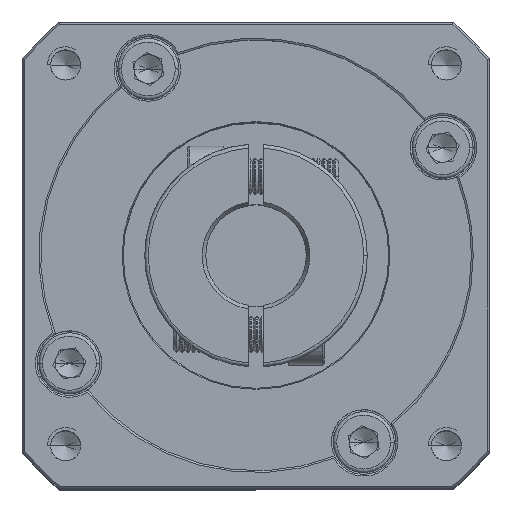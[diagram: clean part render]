
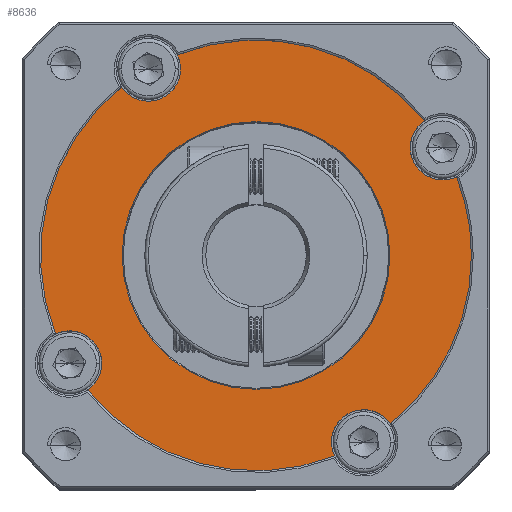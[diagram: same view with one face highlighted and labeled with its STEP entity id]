
A CAD part, top view. The second image highlights one B-rep face of the part: STEP entity #8636.
In plain terms, the highlighted planar face has unit normal (0, 0, 1).
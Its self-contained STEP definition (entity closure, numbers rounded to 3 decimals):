
#680 = AXIS2_PLACEMENT_3D ( 'NONE', #80661, #31810, #72005 ) ;
#3018 = DIRECTION ( 'NONE',  ( 1., 0., 0. ) ) ;
#3845 = CIRCLE ( 'NONE', #107388, 4.5 ) ;
#4680 = CIRCLE ( 'NONE', #114110, 4.5 ) ;
#5037 = CARTESIAN_POINT ( 'NONE',  ( -59.944, -0.896, -2.424 ) ) ;
#5299 = EDGE_CURVE ( 'NONE', #93708, #106235, #26421, .T. ) ;
#6214 = CIRCLE ( 'NONE', #122638, 18.644 ) ;
#7207 = ORIENTED_EDGE ( 'NONE', *, *, #5299, .F. ) ;
#8636 = ADVANCED_FACE ( 'NONE', ( #51244, #52737 ), #118200, .T. ) ;
#8992 = EDGE_CURVE ( 'NONE', #63909, #125956, #84758, .T. ) ;
#9085 = VERTEX_POINT ( 'NONE', #26927 ) ;
#9103 = CARTESIAN_POINT ( 'NONE',  ( -36.499, 17.821, -2.424 ) ) ;
#9124 = CARTESIAN_POINT ( 'NONE',  ( -8.567, 28.766, -2.424 ) ) ;
#10484 = CARTESIAN_POINT ( 'NONE',  ( -25.554, -10.111, -2.424 ) ) ;
#10840 = CARTESIAN_POINT ( 'NONE',  ( -57.98, 2.821, -2.424 ) ) ;
#11947 = CIRCLE ( 'NONE', #15474, 4.5 ) ;
#12978 = AXIS2_PLACEMENT_3D ( 'NONE', #31154, #70525, #109903 ) ;
#13712 = DIRECTION ( 'NONE',  ( 1., 0., 0. ) ) ;
#13940 = ORIENTED_EDGE ( 'NONE', *, *, #8992, .T. ) ;
#14415 = ORIENTED_EDGE ( 'NONE', *, *, #112878, .F. ) ;
#14554 = CARTESIAN_POINT ( 'NONE',  ( -62.48, 2.821, -2.424 ) ) ;
#15474 = AXIS2_PLACEMENT_3D ( 'NONE', #16868, #65189, #36140 ) ;
#16868 = CARTESIAN_POINT ( 'NONE',  ( -62.48, 2.821, -2.424 ) ) ;
#17542 = CARTESIAN_POINT ( 'NONE',  ( -36.499, 17.821, -2.424 ) ) ;
#17727 = EDGE_CURVE ( 'NONE', #114563, #99914, #90329, .T. ) ;
#18719 = AXIS2_PLACEMENT_3D ( 'NONE', #103231, #112720, #84083 ) ;
#20790 = CARTESIAN_POINT ( 'NONE',  ( -36.499, 17.821, -2.424 ) ) ;
#20842 = ORIENTED_EDGE ( 'NONE', *, *, #53605, .F. ) ;
#21709 = DIRECTION ( 'NONE',  ( 0., 0., 1. ) ) ;
#21981 = EDGE_LOOP ( 'NONE', ( #119877, #39073, #22604, #20842, #13940, #93633, #14415, #7207, #87514, #117417, #64119, #122611, #64389 ) ) ;
#22604 = ORIENTED_EDGE ( 'NONE', *, *, #90869, .F. ) ;
#23951 = CARTESIAN_POINT ( 'NONE',  ( -51.499, 43.802, -2.424 ) ) ;
#24765 = VERTEX_POINT ( 'NONE', #9124 ) ;
#25852 = CIRCLE ( 'NONE', #39950, 18.644 ) ;
#26421 = CIRCLE ( 'NONE', #18719, 4.5 ) ;
#26927 = CARTESIAN_POINT ( 'NONE',  ( -47.444, 45.753, -2.424 ) ) ;
#28138 = EDGE_CURVE ( 'NONE', #108896, #98127, #11947, .T. ) ;
#28393 = DIRECTION ( 'NONE',  ( 1., 0., 0. ) ) ;
#30044 = CARTESIAN_POINT ( 'NONE',  ( -6.499, 17.821, -2.424 ) ) ;
#30264 = VERTEX_POINT ( 'NONE', #113818 ) ;
#30518 = CARTESIAN_POINT ( 'NONE',  ( -36.499, 17.821, -2.424 ) ) ;
#31154 = CARTESIAN_POINT ( 'NONE',  ( -36.499, 17.821, -2.424 ) ) ;
#31810 = DIRECTION ( 'NONE',  ( 0., 0., 1. ) ) ;
#31830 = CARTESIAN_POINT ( 'NONE',  ( -55.216, 41.266, -2.424 ) ) ;
#34216 = DIRECTION ( 'NONE',  ( 1., 0., 0. ) ) ;
#36140 = DIRECTION ( 'NONE',  ( 1., 0., 0. ) ) ;
#38069 = AXIS2_PLACEMENT_3D ( 'NONE', #126661, #70542, #3018 ) ;
#39073 = ORIENTED_EDGE ( 'NONE', *, *, #17727, .T. ) ;
#39950 = AXIS2_PLACEMENT_3D ( 'NONE', #20790, #99065, #79873 ) ;
#43678 = DIRECTION ( 'NONE',  ( 0., 0., 1. ) ) ;
#44268 = CARTESIAN_POINT ( 'NONE',  ( -17.855, 17.821, -2.424 ) ) ;
#46415 = CARTESIAN_POINT ( 'NONE',  ( -13.054, 36.539, -2.424 ) ) ;
#47474 = DIRECTION ( 'NONE',  ( 0., 0., 1. ) ) ;
#47683 = DIRECTION ( 'NONE',  ( 0., 0., 1. ) ) ;
#48548 = CARTESIAN_POINT ( 'NONE',  ( -17.782, -5.624, -2.424 ) ) ;
#48902 = DIRECTION ( 'NONE',  ( 0., 0., 1. ) ) ;
#51244 = FACE_BOUND ( 'NONE', #101482, .T. ) ;
#51355 = ORIENTED_EDGE ( 'NONE', *, *, #73498, .T. ) ;
#51702 = CARTESIAN_POINT ( 'NONE',  ( -51.499, 43.802, -2.424 ) ) ;
#52552 = DIRECTION ( 'NONE',  ( 1., 0., 0. ) ) ;
#52737 = FACE_OUTER_BOUND ( 'NONE', #21981, .T. ) ;
#53097 = EDGE_CURVE ( 'NONE', #120150, #54076, #6214, .T. ) ;
#53605 = EDGE_CURVE ( 'NONE', #63909, #65089, #125478, .T. ) ;
#54076 = VERTEX_POINT ( 'NONE', #110431 ) ;
#56753 = VERTEX_POINT ( 'NONE', #31830 ) ;
#59912 = AXIS2_PLACEMENT_3D ( 'NONE', #14554, #43678, #34216 ) ;
#60525 = DIRECTION ( 'NONE',  ( 1., 0., 0. ) ) ;
#62387 = DIRECTION ( 'NONE',  ( 0., 0., 1. ) ) ;
#63909 = VERTEX_POINT ( 'NONE', #48548 ) ;
#64119 = ORIENTED_EDGE ( 'NONE', *, *, #82154, .F. ) ;
#64389 = ORIENTED_EDGE ( 'NONE', *, *, #28138, .F. ) ;
#65089 = VERTEX_POINT ( 'NONE', #95884 ) ;
#65189 = DIRECTION ( 'NONE',  ( 0., 0., 1. ) ) ;
#67382 = EDGE_CURVE ( 'NONE', #114563, #108896, #91182, .T. ) ;
#68147 = DIRECTION ( 'NONE',  ( 1., 0., 0. ) ) ;
#70525 = DIRECTION ( 'NONE',  ( 0., 0., 1. ) ) ;
#70542 = DIRECTION ( 'NONE',  ( 0., 0., 1. ) ) ;
#71606 = EDGE_CURVE ( 'NONE', #125956, #24765, #116986, .T. ) ;
#72005 = DIRECTION ( 'NONE',  ( 1., 0., 0. ) ) ;
#73498 = EDGE_CURVE ( 'NONE', #54076, #120150, #25852, .T. ) ;
#74487 = CARTESIAN_POINT ( 'NONE',  ( -15.018, 32.821, -2.424 ) ) ;
#78057 = CARTESIAN_POINT ( 'NONE',  ( -36.499, 17.821, -2.424 ) ) ;
#78650 = CIRCLE ( 'NONE', #12978, 30. ) ;
#79067 = AXIS2_PLACEMENT_3D ( 'NONE', #17542, #47474, #106035 ) ;
#79873 = DIRECTION ( 'NONE',  ( 1., 0., 0. ) ) ;
#80202 = DIRECTION ( 'NONE',  ( 0., 0., -1. ) ) ;
#80661 = CARTESIAN_POINT ( 'NONE',  ( -10.518, 32.821, -2.424 ) ) ;
#80827 = EDGE_CURVE ( 'NONE', #30264, #9085, #3845, .T. ) ;
#80986 = EDGE_CURVE ( 'NONE', #56753, #98127, #95594, .T. ) ;
#82154 = EDGE_CURVE ( 'NONE', #56753, #30264, #4680, .T. ) ;
#83943 = DIRECTION ( 'NONE',  ( 1., 0., 0. ) ) ;
#84083 = DIRECTION ( 'NONE',  ( 1., 0., 0. ) ) ;
#84758 = CIRCLE ( 'NONE', #79067, 30. ) ;
#84784 = CARTESIAN_POINT ( 'NONE',  ( -36.499, 17.821, -2.424 ) ) ;
#86759 = AXIS2_PLACEMENT_3D ( 'NONE', #84784, #114686, #83943 ) ;
#87514 = ORIENTED_EDGE ( 'NONE', *, *, #119600, .T. ) ;
#90144 = DIRECTION ( 'NONE',  ( 1., 0., 0. ) ) ;
#90329 = CIRCLE ( 'NONE', #86759, 30. ) ;
#90869 = EDGE_CURVE ( 'NONE', #65089, #99914, #93539, .T. ) ;
#91182 = CIRCLE ( 'NONE', #59912, 4.5 ) ;
#91392 = AXIS2_PLACEMENT_3D ( 'NONE', #78057, #47683, #28393 ) ;
#92856 = AXIS2_PLACEMENT_3D ( 'NONE', #9103, #48902, #98454 ) ;
#93539 = CIRCLE ( 'NONE', #38069, 4.5 ) ;
#93633 = ORIENTED_EDGE ( 'NONE', *, *, #71606, .T. ) ;
#93708 = VERTEX_POINT ( 'NONE', #46415 ) ;
#95594 = CIRCLE ( 'NONE', #98351, 30. ) ;
#95884 = CARTESIAN_POINT ( 'NONE',  ( -25.999, -8.16, -2.424 ) ) ;
#98127 = VERTEX_POINT ( 'NONE', #110738 ) ;
#98351 = AXIS2_PLACEMENT_3D ( 'NONE', #101658, #21709, #90144 ) ;
#98454 = DIRECTION ( 'NONE',  ( 1., 0., 0. ) ) ;
#99065 = DIRECTION ( 'NONE',  ( 0., 0., -1. ) ) ;
#99914 = VERTEX_POINT ( 'NONE', #10484 ) ;
#100732 = ORIENTED_EDGE ( 'NONE', *, *, #53097, .T. ) ;
#100936 = DIRECTION ( 'NONE',  ( 0., 0., 1. ) ) ;
#101482 = EDGE_LOOP ( 'NONE', ( #100732, #51355 ) ) ;
#101658 = CARTESIAN_POINT ( 'NONE',  ( -36.499, 17.821, -2.424 ) ) ;
#102572 = CIRCLE ( 'NONE', #680, 4.5 ) ;
#103231 = CARTESIAN_POINT ( 'NONE',  ( -10.518, 32.821, -2.424 ) ) ;
#106035 = DIRECTION ( 'NONE',  ( 1., 0., 0. ) ) ;
#106235 = VERTEX_POINT ( 'NONE', #74487 ) ;
#107062 = DIRECTION ( 'NONE',  ( 0., 0., 1. ) ) ;
#107388 = AXIS2_PLACEMENT_3D ( 'NONE', #51702, #62387, #52552 ) ;
#108896 = VERTEX_POINT ( 'NONE', #10840 ) ;
#109903 = DIRECTION ( 'NONE',  ( 1., 0., 0. ) ) ;
#110431 = CARTESIAN_POINT ( 'NONE',  ( -55.143, 17.821, -2.424 ) ) ;
#110738 = CARTESIAN_POINT ( 'NONE',  ( -64.431, 6.876, -2.424 ) ) ;
#112720 = DIRECTION ( 'NONE',  ( 0., 0., 1. ) ) ;
#112878 = EDGE_CURVE ( 'NONE', #106235, #24765, #102572, .T. ) ;
#113634 = AXIS2_PLACEMENT_3D ( 'NONE', #126374, #107062, #68147 ) ;
#113818 = CARTESIAN_POINT ( 'NONE',  ( -46.999, 43.802, -2.424 ) ) ;
#114110 = AXIS2_PLACEMENT_3D ( 'NONE', #23951, #100936, #13712 ) ;
#114563 = VERTEX_POINT ( 'NONE', #5037 ) ;
#114686 = DIRECTION ( 'NONE',  ( 0., 0., 1. ) ) ;
#116986 = CIRCLE ( 'NONE', #91392, 30. ) ;
#117417 = ORIENTED_EDGE ( 'NONE', *, *, #80827, .F. ) ;
#118200 = PLANE ( 'NONE',  #92856 ) ;
#119600 = EDGE_CURVE ( 'NONE', #93708, #9085, #78650, .T. ) ;
#119877 = ORIENTED_EDGE ( 'NONE', *, *, #67382, .F. ) ;
#120150 = VERTEX_POINT ( 'NONE', #44268 ) ;
#122611 = ORIENTED_EDGE ( 'NONE', *, *, #80986, .T. ) ;
#122638 = AXIS2_PLACEMENT_3D ( 'NONE', #30518, #80202, #60525 ) ;
#125478 = CIRCLE ( 'NONE', #113634, 4.5 ) ;
#125956 = VERTEX_POINT ( 'NONE', #30044 ) ;
#126374 = CARTESIAN_POINT ( 'NONE',  ( -21.499, -8.16, -2.424 ) ) ;
#126661 = CARTESIAN_POINT ( 'NONE',  ( -21.499, -8.16, -2.424 ) ) ;
